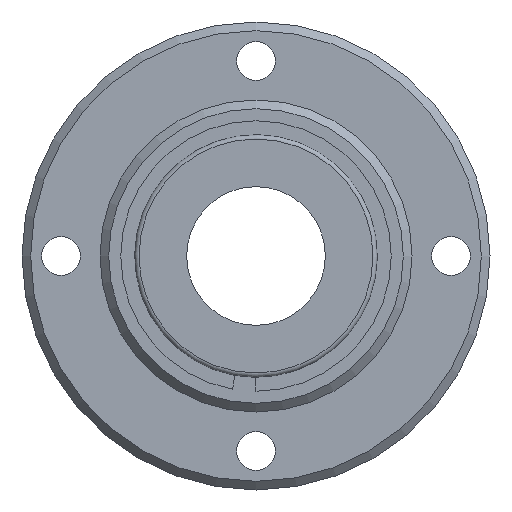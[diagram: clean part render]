
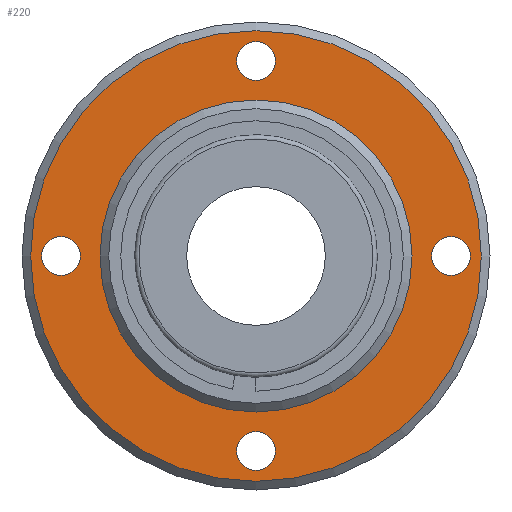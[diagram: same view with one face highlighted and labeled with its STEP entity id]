
A CAD part, left-side view. The second image highlights one B-rep face of the part: STEP entity #220.
In plain terms, the highlighted planar face has unit normal (-1, 0, 0).
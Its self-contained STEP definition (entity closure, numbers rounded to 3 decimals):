
#220=ADVANCED_FACE('',(#265,#266,#267,#268,#269,#270),#271,.F.);
#265=FACE_BOUND('',#387,.T.);
#266=FACE_BOUND('',#388,.T.);
#267=FACE_BOUND('',#389,.T.);
#268=FACE_BOUND('',#390,.T.);
#269=FACE_OUTER_BOUND('',#391,.T.);
#270=FACE_BOUND('',#392,.T.);
#271=PLANE('',#393);
#387=EDGE_LOOP('',(#511));
#388=EDGE_LOOP('',(#512));
#389=EDGE_LOOP('',(#513));
#390=EDGE_LOOP('',(#514));
#391=EDGE_LOOP('',(#515));
#392=EDGE_LOOP('',(#516));
#393=AXIS2_PLACEMENT_3D('',#517,#518,#519);
#511=ORIENTED_EDGE('',*,*,#749,.T.);
#512=ORIENTED_EDGE('',*,*,#750,.T.);
#513=ORIENTED_EDGE('',*,*,#751,.T.);
#514=ORIENTED_EDGE('',*,*,#752,.T.);
#515=ORIENTED_EDGE('',*,*,#753,.F.);
#516=ORIENTED_EDGE('',*,*,#754,.T.);
#517=CARTESIAN_POINT('',(-4.0,18.0,0.0));
#518=DIRECTION('',(1.0,0.0,0.0));
#519=DIRECTION('',(0.0,0.0,-1.0));
#749=EDGE_CURVE('',#808,#808,#809,.T.);
#750=EDGE_CURVE('',#810,#810,#811,.T.);
#751=EDGE_CURVE('',#812,#812,#813,.T.);
#752=EDGE_CURVE('',#814,#814,#815,.T.);
#753=EDGE_CURVE('',#816,#816,#817,.T.);
#754=EDGE_CURVE('',#818,#818,#819,.T.);
#808=VERTEX_POINT('',#916);
#809=CIRCLE('',#917,2.25);
#810=VERTEX_POINT('',#918);
#811=CIRCLE('',#919,2.25);
#812=VERTEX_POINT('',#920);
#813=CIRCLE('',#921,2.25);
#814=VERTEX_POINT('',#922);
#815=CIRCLE('',#923,2.25);
#816=VERTEX_POINT('',#924);
#817=CIRCLE('',#925,26.0);
#818=VERTEX_POINT('',#926);
#819=CIRCLE('',#927,18.0);
#916=CARTESIAN_POINT('',(-4.0,22.5,-2.25));
#917=AXIS2_PLACEMENT_3D('',#1041,#1042,#1043);
#918=CARTESIAN_POINT('',(-4.0,0.0,20.25));
#919=AXIS2_PLACEMENT_3D('',#1044,#1045,#1046);
#920=CARTESIAN_POINT('',(-4.0,0.0,-24.75));
#921=AXIS2_PLACEMENT_3D('',#1047,#1048,#1049);
#922=CARTESIAN_POINT('',(-4.0,-22.5,-2.25));
#923=AXIS2_PLACEMENT_3D('',#1050,#1051,#1052);
#924=CARTESIAN_POINT('',(-4.0,0.0,-26.0));
#925=AXIS2_PLACEMENT_3D('',#1053,#1054,#1055);
#926=CARTESIAN_POINT('',(-4.0,0.0,-18.0));
#927=AXIS2_PLACEMENT_3D('',#1056,#1057,#1058);
#1041=CARTESIAN_POINT('',(-4.0,22.5,0.0));
#1042=DIRECTION('',(1.0,0.0,0.0));
#1043=DIRECTION('',(0.0,0.0,-1.0));
#1044=CARTESIAN_POINT('',(-4.0,0.0,22.5));
#1045=DIRECTION('',(1.0,0.0,0.0));
#1046=DIRECTION('',(0.0,0.0,-1.0));
#1047=CARTESIAN_POINT('',(-4.0,0.0,-22.5));
#1048=DIRECTION('',(1.0,0.0,0.0));
#1049=DIRECTION('',(0.0,0.0,-1.0));
#1050=CARTESIAN_POINT('',(-4.0,-22.5,0.0));
#1051=DIRECTION('',(1.0,0.0,0.0));
#1052=DIRECTION('',(0.0,0.0,-1.0));
#1053=CARTESIAN_POINT('',(-4.0,0.0,0.0));
#1054=DIRECTION('',(1.0,0.0,0.0));
#1055=DIRECTION('',(0.0,0.0,-1.0));
#1056=CARTESIAN_POINT('',(-4.0,0.0,0.0));
#1057=DIRECTION('',(1.0,0.0,0.0));
#1058=DIRECTION('',(0.0,0.0,-1.0));
